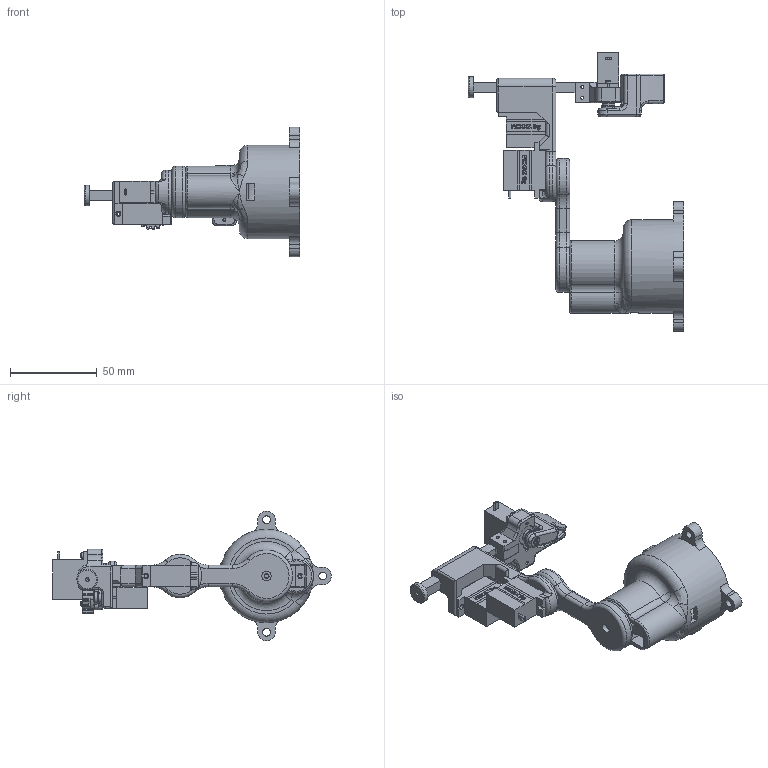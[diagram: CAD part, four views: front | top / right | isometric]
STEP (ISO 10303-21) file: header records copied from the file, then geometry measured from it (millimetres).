
FILE_DESCRIPTION(/* description */ ('','CAx-IF Rec.Pracs.---Representation and Presentation of Product Manufacturing Information (PMI)---4.0---2014-10-13'),/* implementation_level */ '2;1');
FILE_NAME(/* name */ 'Assieme_scara_eco.stp',/* time_stamp */ '2026-04-28T08:55:23+02:00',/* author */ ('R5800u'),/* organization */ (''),/* preprocessor_version */ 'ST-DEVELOPER v20',/* originating_system */ 'Autodesk Inventor 2025',/* authorisation */ '');
FILE_SCHEMA (('AP242_MANAGED_MODEL_BASED_3D_ENGINEERING_MIM_LF { 1 0 10303 442 1 1 4 }'));
Length unit declared in the file: millimetre
Products named in the file (15): Assieme_guida; pignone_17mm; cremagliera; Assieme_blocco_pinza; blocco_pinza_eco_orizzontale_b; dito_pinza_mg90s; ANSI B18.3.1M - M1,6x0,35 x 8, FSHCSM; RCXAZ_9g singolo; Vite a testa cilindrica incassata esalobulare ISO 14580 - M2x8-4.8; frame_guida_mg90s; braccio; base; MG90_ldb_v2; MG90S ARM doppio; tappo_cremagliera
Assembly tree (20 placements, depth 3):
  Assieme_guida
    MG90_ldb_v2  x3
    MG90S ARM doppio  x3
    pignone_17mm
    cremagliera
    Assieme_blocco_pinza
      blocco_pinza_eco_orizzontale_b
      dito_pinza_mg90s
      ANSI B18.3.1M - M1,6x0,35 x 8, FSHCSM  x2
      MG90_ldb_v2
      RCXAZ_9g singolo
      Vite a testa cilindrica incassata esalobulare ISO 14580 - M2x8-4.8
    frame_guida_mg90s
    braccio
    base
    tappo_cremagliera
Bounding box: 124.57 x 161.12 x 75 mm (x, y, z)
Volume: 103925.3 mm3; surface area: 56024.4 mm2
Topology: 19 solids, 21 shells, 2547 faces, 7080 edges, 4646 vertices
Faces by surface type: plane 1488, cylinder 589, bspline 377, torus 73, cone 10, sphere 10
Full cylindrical faces by diameter (mm): 1.167 x12, 1.2 x7, 1.6 x4, 1.8 x10, 2 x3, 2.2 x9, 2.4 x2, 2.7 x2, 2.9 x2, 3 x2, 4.5 x4, 4.75 x4, 5 x6, 5.5 x6, 6.8 x3, 7.4 x1, 12 x1, 17 x1, 48 x1, 54 x1
Entity records: 61831 total; most frequent: CARTESIAN_POINT 21477, DIRECTION 7465, ORIENTED_EDGE 6574, EDGE_CURVE 3290, STYLED_ITEM 2947, AXIS2_PLACEMENT_3D 2766, VERTEX_POINT 2133, LINE 1933
